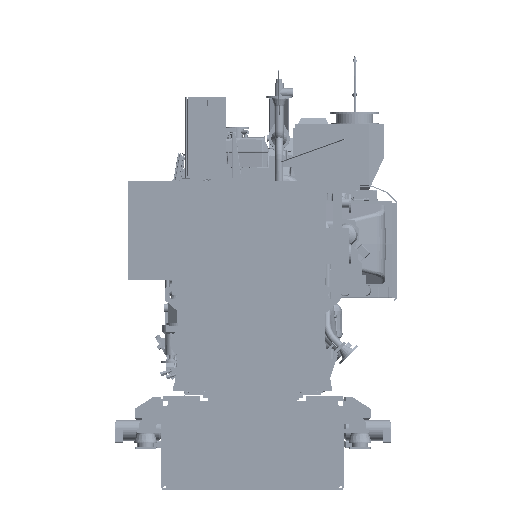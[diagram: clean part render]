
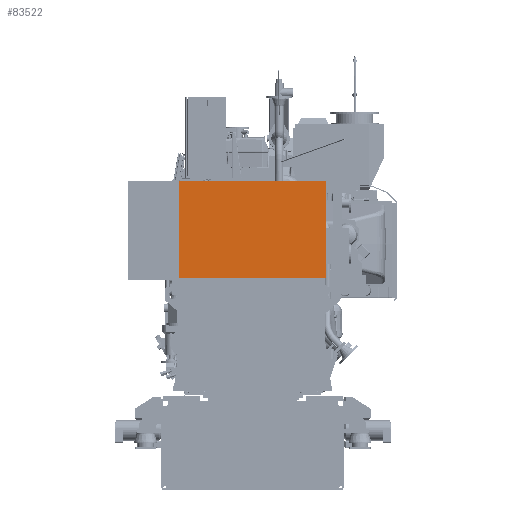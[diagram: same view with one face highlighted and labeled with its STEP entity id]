
A CAD part, left-side view. The second image highlights one B-rep face of the part: STEP entity #83522.
In plain terms, the highlighted planar face has unit normal (-1, 0, 0).
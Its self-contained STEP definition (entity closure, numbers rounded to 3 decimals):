
#68985=PLANE('',#477231);
#83522=ADVANCED_FACE('',(#110020),#68985,.T.);
#110020=FACE_OUTER_BOUND('',#130924,.T.);
#130924=EDGE_LOOP('',(#242136,#242137,#242138,#242139));
#164114=LINE('',#650996,#201330);
#164118=LINE('',#651005,#201334);
#164121=LINE('',#651011,#201337);
#164124=LINE('',#651017,#201340);
#201330=VECTOR('',#520457,1.);
#201334=VECTOR('',#520463,1.);
#201337=VECTOR('',#520468,1.);
#201340=VECTOR('',#520473,1.);
#242136=ORIENTED_EDGE('',*,*,#408719,.T.);
#242137=ORIENTED_EDGE('',*,*,#408723,.T.);
#242138=ORIENTED_EDGE('',*,*,#408726,.T.);
#242139=ORIENTED_EDGE('',*,*,#408729,.T.);
#365004=VERTEX_POINT('',#650997);
#365005=VERTEX_POINT('',#650998);
#365008=VERTEX_POINT('',#651006);
#365010=VERTEX_POINT('',#651012);
#408719=EDGE_CURVE('',#365004,#365005,#164114,.T.);
#408723=EDGE_CURVE('',#365005,#365008,#164118,.T.);
#408726=EDGE_CURVE('',#365008,#365010,#164121,.T.);
#408729=EDGE_CURVE('',#365010,#365004,#164124,.T.);
#477231=AXIS2_PLACEMENT_3D('',#651021,#520479,#520480);
#520457=DIRECTION('',(0.,-1.,0.));
#520463=DIRECTION('',(0.,0.,1.));
#520468=DIRECTION('',(0.,1.,0.));
#520473=DIRECTION('',(0.,0.,-1.));
#520479=DIRECTION('',(-1.,0.,0.));
#520480=DIRECTION('',(0.,0.,1.));
#650996=CARTESIAN_POINT('',(-7256.,725.,640.));
#650997=CARTESIAN_POINT('',(-7256.,725.,640.));
#650998=CARTESIAN_POINT('',(-7256.,-725.,640.));
#651005=CARTESIAN_POINT('',(-7256.,-725.,640.));
#651006=CARTESIAN_POINT('',(-7256.,-725.,1590.));
#651011=CARTESIAN_POINT('',(-7256.,-725.,1590.));
#651012=CARTESIAN_POINT('',(-7256.,725.,1590.));
#651017=CARTESIAN_POINT('',(-7256.,725.,1590.));
#651021=CARTESIAN_POINT('',(-7256.,0.,0.));
